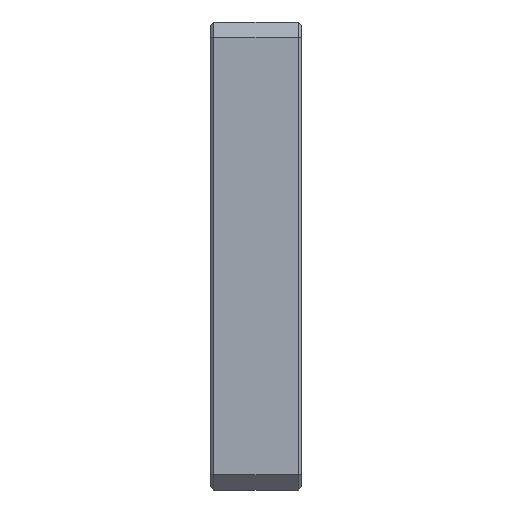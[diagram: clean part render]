
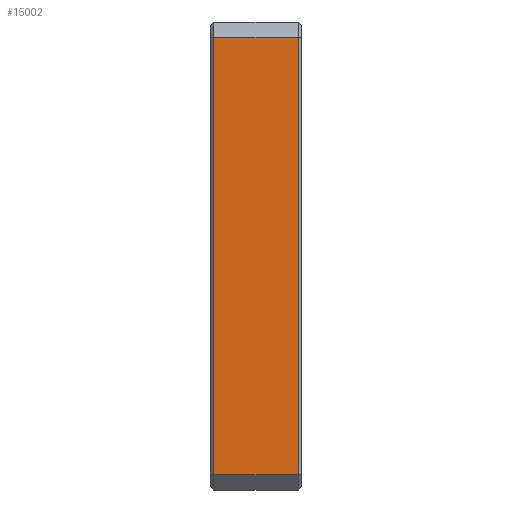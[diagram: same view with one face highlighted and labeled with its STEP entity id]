
A CAD part, left-side view. The second image highlights one B-rep face of the part: STEP entity #15002.
In plain terms, the highlighted planar face has unit normal (-1, 0, 0).
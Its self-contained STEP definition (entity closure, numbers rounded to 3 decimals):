
#453=DIRECTION('',(0.,1.,0.));
#454=VECTOR('',#453,28.);
#455=CARTESIAN_POINT('',(-77.5,1.,72.5));
#456=LINE('',#455,#454);
#2976=DIRECTION('',(0.,0.,1.));
#2977=VECTOR('',#2976,145.);
#2978=CARTESIAN_POINT('',(-77.5,29.,-72.5));
#2979=LINE('',#2978,#2977);
#2980=DIRECTION('',(0.,1.,0.));
#2981=VECTOR('',#2980,28.);
#2982=CARTESIAN_POINT('',(-77.5,1.,-72.5));
#2983=LINE('',#2982,#2981);
#2984=DIRECTION('',(0.,0.,1.));
#2985=VECTOR('',#2984,145.);
#2986=CARTESIAN_POINT('',(-77.5,1.,-72.5));
#2987=LINE('',#2986,#2985);
#11340=CARTESIAN_POINT('',(-77.5,1.,-72.5));
#11341=VERTEX_POINT('',#11340);
#11342=CARTESIAN_POINT('',(-77.5,29.,-72.5));
#11343=VERTEX_POINT('',#11342);
#11344=CARTESIAN_POINT('',(-77.5,29.,72.5));
#11345=VERTEX_POINT('',#11344);
#11350=CARTESIAN_POINT('',(-77.5,1.,72.5));
#11351=VERTEX_POINT('',#11350);
#14990=CARTESIAN_POINT('',(-77.5,30.,77.5));
#14991=DIRECTION('',(1.,0.,0.));
#14992=DIRECTION('',(0.,0.,-1.));
#14993=AXIS2_PLACEMENT_3D('',#14990,#14991,#14992);
#14994=PLANE('',#14993);
#14995=ORIENTED_EDGE('',*,*,#13193,.T.);
#14996=ORIENTED_EDGE('',*,*,#13223,.F.);
#14998=ORIENTED_EDGE('',*,*,#14997,.F.);
#14999=ORIENTED_EDGE('',*,*,#14983,.T.);
#15000=EDGE_LOOP('',(#14995,#14996,#14998,#14999));
#15001=FACE_OUTER_BOUND('',#15000,.F.);
#15002=ADVANCED_FACE('',(#15001),#14994,.F.);
#13193=EDGE_CURVE('',#11343,#11345,#2979,.T.);
#13223=EDGE_CURVE('',#11351,#11345,#456,.T.);
#14983=EDGE_CURVE('',#11341,#11343,#2983,.T.);
#14997=EDGE_CURVE('',#11341,#11351,#2987,.T.);
